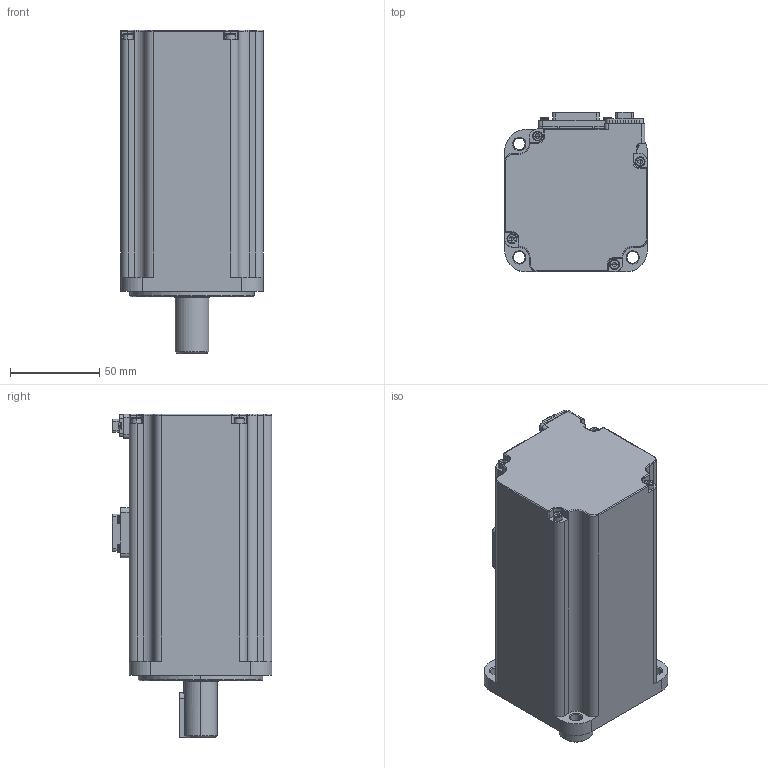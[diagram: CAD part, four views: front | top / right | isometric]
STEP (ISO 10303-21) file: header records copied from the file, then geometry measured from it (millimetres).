
FILE_DESCRIPTION (( 'STEP AP214' ), '1' );
FILE_NAME ('307090508SS£¨SMK80S-0100-30SBK-5DKA£©.STEP', '2024-03-29T12:57:05', ( 'kinavo-1' ), ( '' ), 'SwSTEP 2.0', 'SolidWorks 2023', '' );
FILE_SCHEMA (( 'AUTOMOTIVE_DESIGN' ));
Length unit declared in the file: millimetre
Products named in the file (1): 307090508SS（SMK80S-0100-30SBK-5DKA）
Bounding box: 80 x 89.6 x 181.5 mm (x, y, z)
Volume: 852123.4 mm3; surface area: 71133.5 mm2
Topology: 2 solids, 40 shells, 1665 faces, 4197 edges, 2622 vertices
Faces by surface type: plane 744, cylinder 618, torus 124, cone 118, bspline 34, sphere 27
Entity records: 56533 total; most frequent: CARTESIAN_POINT 16489, DIRECTION 8548, ORIENTED_EDGE 8256, EDGE_CURVE 4128, AXIS2_PLACEMENT_3D 3128, VERTEX_POINT 2614, VECTOR 2292, LINE 2292
